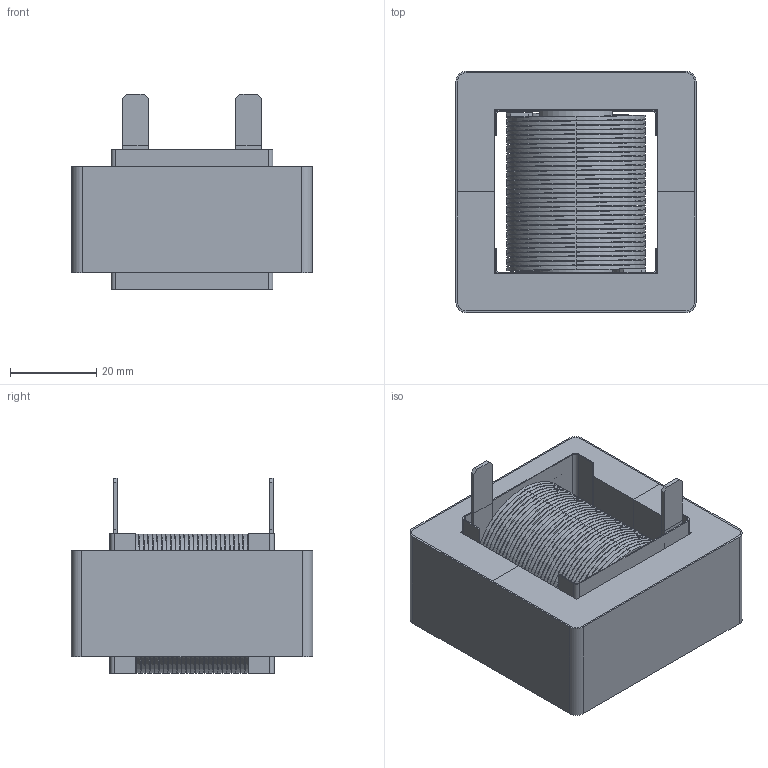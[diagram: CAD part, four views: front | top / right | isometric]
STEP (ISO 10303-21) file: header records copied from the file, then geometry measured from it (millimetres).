
FILE_DESCRIPTION (( 'STEP AP214' ), '1' );
FILE_NAME ('ES55246-221M-40AH.STEP', '2021-04-13T10:25:12', ( '' ), ( '' ), 'SwSTEP 2.0', 'SolidWorks 2015', '' );
FILE_SCHEMA (( 'AUTOMOTIVE_DESIGN' ));
Length unit declared in the file: millimetre
Products named in the file (6): WRAPPER; E CORE; ES55246-221M-40AH; HELICAL COIL; SIDE MYLAR; CENTER MYLAR
Assembly tree (7 placements, depth 2):
  ES55246-221M-40AH
    HELICAL COIL
    E CORE  x2
    SIDE MYLAR  x2
    CENTER MYLAR
    WRAPPER
Bounding box: 55.62 x 55.9 x 45.35 mm (x, y, z)
Volume: 67894.4 mm3; surface area: 75679.6 mm2
Topology: 9 solids, 9 shells, 412 faces, 1132 edges, 752 vertices
Faces by surface type: plane 181, cylinder 172, bspline 59
Entity records: 20824 total; most frequent: CARTESIAN_POINT 10282, ORIENTED_EDGE 2096, DIRECTION 1352, EDGE_CURVE 1048, VERTEX_POINT 696, LINE 600, VECTOR 600, EDGE_LOOP 402
